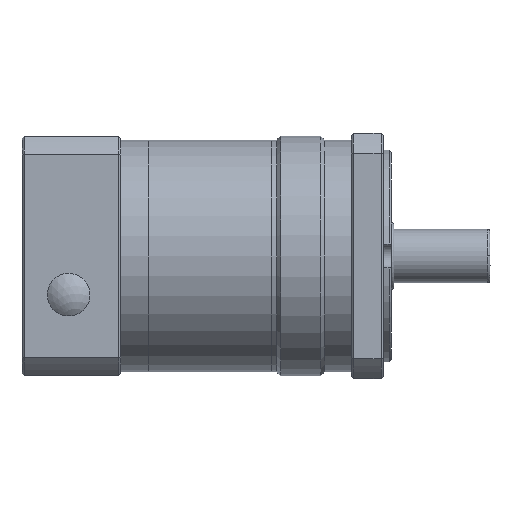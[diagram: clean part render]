
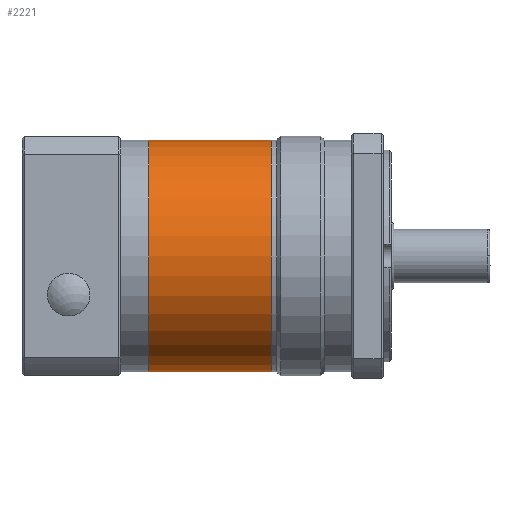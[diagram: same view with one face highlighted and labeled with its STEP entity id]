
A CAD part, front view. The second image highlights one B-rep face of the part: STEP entity #2221.
In plain terms, the highlighted cylindrical face has radius 43.5 mm (diameter 87 mm), a partial arc.
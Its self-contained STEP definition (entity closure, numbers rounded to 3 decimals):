
#374 = CARTESIAN_POINT ( 'NONE',  ( -43.5, 0., 24.75 ) ) ;
#569 = CARTESIAN_POINT ( 'NONE',  ( 0., 0., 24.75 ) ) ;
#1777 = EDGE_CURVE ( 'NONE', #8229, #7039, #6474, .T. ) ;
#1879 = VERTEX_POINT ( 'NONE', #6217 ) ;
#2221 = ADVANCED_FACE ( 'NONE', ( #12220 ), #4281, .T. ) ;
#2511 = ORIENTED_EDGE ( 'NONE', *, *, #1777, .T. ) ;
#2890 = CIRCLE ( 'NONE', #9599, 43.5 ) ;
#3278 = ORIENTED_EDGE ( 'NONE', *, *, #8643, .T. ) ;
#3603 = CARTESIAN_POINT ( 'NONE',  ( -43.5, 0., 24.75 ) ) ;
#4281 = CYLINDRICAL_SURFACE ( 'NONE', #14175, 43.5 ) ;
#4578 = DIRECTION ( 'NONE',  ( 0., 0., -1. ) ) ;
#4899 = LINE ( 'NONE', #374, #13413 ) ;
#5504 = CARTESIAN_POINT ( 'NONE',  ( 43.5, 0., 24.75 ) ) ;
#6217 = CARTESIAN_POINT ( 'NONE',  ( -43.5, 0., -21.25 ) ) ;
#6353 = DIRECTION ( 'NONE',  ( 0., 0., -1. ) ) ;
#6430 = EDGE_LOOP ( 'NONE', ( #14251, #2511, #3278, #9734 ) ) ;
#6474 = CIRCLE ( 'NONE', #13957, 43.5 ) ;
#6537 = CARTESIAN_POINT ( 'NONE',  ( 0., 0., -21.25 ) ) ;
#6624 = EDGE_CURVE ( 'NONE', #1879, #14572, #2890, .T. ) ;
#7039 = VERTEX_POINT ( 'NONE', #3603 ) ;
#7100 = DIRECTION ( 'NONE',  ( 0., 0., -1. ) ) ;
#7357 = CARTESIAN_POINT ( 'NONE',  ( 43.5, 0., -21.25 ) ) ;
#7960 = DIRECTION ( 'NONE',  ( -1., 0., 0. ) ) ;
#8229 = VERTEX_POINT ( 'NONE', #5504 ) ;
#8313 = CARTESIAN_POINT ( 'NONE',  ( 0., 0., 24.75 ) ) ;
#8643 = EDGE_CURVE ( 'NONE', #7039, #1879, #4899, .T. ) ;
#9432 = CARTESIAN_POINT ( 'NONE',  ( 43.5, 0., 24.75 ) ) ;
#9599 = AXIS2_PLACEMENT_3D ( 'NONE', #6537, #15070, #12389 ) ;
#9734 = ORIENTED_EDGE ( 'NONE', *, *, #6624, .T. ) ;
#10359 = LINE ( 'NONE', #9432, #13035 ) ;
#11539 = EDGE_CURVE ( 'NONE', #8229, #14572, #10359, .T. ) ;
#12220 = FACE_OUTER_BOUND ( 'NONE', #6430, .T. ) ;
#12389 = DIRECTION ( 'NONE',  ( -1., 0., 0. ) ) ;
#12764 = DIRECTION ( 'NONE',  ( 0., 0., -1. ) ) ;
#13035 = VECTOR ( 'NONE', #7100, 1000. ) ;
#13413 = VECTOR ( 'NONE', #6353, 1000. ) ;
#13957 = AXIS2_PLACEMENT_3D ( 'NONE', #8313, #4578, #15631 ) ;
#14175 = AXIS2_PLACEMENT_3D ( 'NONE', #569, #12764, #7960 ) ;
#14251 = ORIENTED_EDGE ( 'NONE', *, *, #11539, .F. ) ;
#14572 = VERTEX_POINT ( 'NONE', #7357 ) ;
#15070 = DIRECTION ( 'NONE',  ( 0., 0., 1. ) ) ;
#15631 = DIRECTION ( 'NONE',  ( -1., 0., 0. ) ) ;
